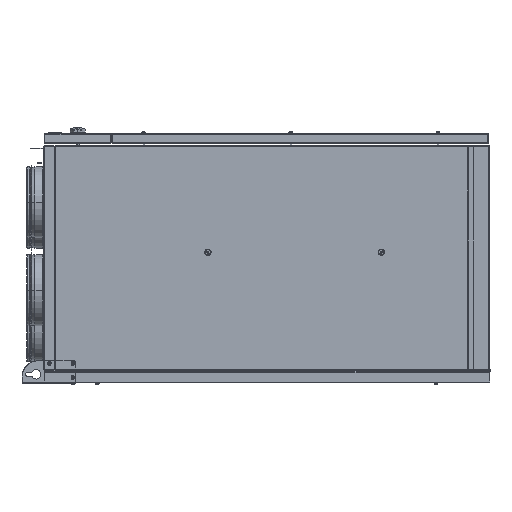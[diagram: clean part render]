
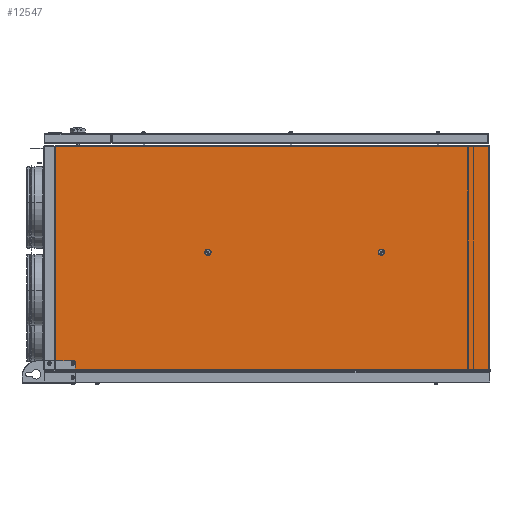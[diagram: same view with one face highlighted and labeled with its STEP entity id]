
A CAD part, left-side view. The second image highlights one B-rep face of the part: STEP entity #12547.
In plain terms, the highlighted planar face has unit normal (-1, 0, 0).
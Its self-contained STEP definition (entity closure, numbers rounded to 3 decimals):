
#462 = EDGE_CURVE ( 'NONE', #6132, #2155, #6568, .T. ) ;
#2112 = LINE ( 'NONE', #38619, #3410 ) ;
#2155 = VERTEX_POINT ( 'NONE', #54022 ) ;
#2178 = CARTESIAN_POINT ( 'NONE',  ( -357.5, 1.8, -250.2 ) ) ;
#2740 = CARTESIAN_POINT ( 'NONE',  ( -357.5, 935., -238. ) ) ;
#2783 = CARTESIAN_POINT ( 'NONE',  ( -357.5, 242.9, 5.95 ) ) ;
#3092 = DIRECTION ( 'NONE',  ( -1., 0., 0. ) ) ;
#3274 = DIRECTION ( 'NONE',  ( 0., 0., 1. ) ) ;
#3384 = PLANE ( 'NONE',  #7782 ) ;
#3410 = VECTOR ( 'NONE', #56352, 1000. ) ;
#3555 = EDGE_CURVE ( 'NONE', #10007, #17920, #6646, .T. ) ;
#4358 = VERTEX_POINT ( 'NONE', #40128 ) ;
#4546 = ORIENTED_EDGE ( 'NONE', *, *, #37330, .F. ) ;
#5634 = ORIENTED_EDGE ( 'NONE', *, *, #462, .F. ) ;
#6132 = VERTEX_POINT ( 'NONE', #2178 ) ;
#6388 = LINE ( 'NONE', #24389, #26656 ) ;
#6568 = LINE ( 'NONE', #37080, #44572 ) ;
#6646 = CIRCLE ( 'NONE', #22425, 7.15 ) ;
#7160 = CIRCLE ( 'NONE', #21964, 1.65 ) ;
#7540 = CIRCLE ( 'NONE', #34459, 7.15 ) ;
#7566 = EDGE_LOOP ( 'NONE', ( #30849, #8208 ) ) ;
#7729 = DIRECTION ( 'NONE',  ( 0., 1., 0. ) ) ;
#7782 = AXIS2_PLACEMENT_3D ( 'NONE', #30096, #33874, #7729 ) ;
#7938 = EDGE_CURVE ( 'NONE', #26345, #6132, #6388, .T. ) ;
#8102 = DIRECTION ( 'NONE',  ( -1., 0., 0. ) ) ;
#8208 = ORIENTED_EDGE ( 'NONE', *, *, #28723, .F. ) ;
#8583 = EDGE_LOOP ( 'NONE', ( #56703, #4546, #55564, #5634 ) ) ;
#8753 = CARTESIAN_POINT ( 'NONE',  ( -357.5, 973.1, -5126.5 ) ) ;
#8774 = CARTESIAN_POINT ( 'NONE',  ( -357.5, 933.35, -238. ) ) ;
#9228 = EDGE_CURVE ( 'NONE', #14181, #44152, #7160, .T. ) ;
#10007 = VERTEX_POINT ( 'NONE', #14467 ) ;
#10480 = VERTEX_POINT ( 'NONE', #2783 ) ;
#10754 = DIRECTION ( 'NONE',  ( 0., 0., -1. ) ) ;
#12065 = ORIENTED_EDGE ( 'NONE', *, *, #51888, .F. ) ;
#12099 = DIRECTION ( 'NONE',  ( -1., 0., 0. ) ) ;
#12407 = CARTESIAN_POINT ( 'NONE',  ( -357.5, 935., -238. ) ) ;
#12547 = ADVANCED_FACE ( 'NONE', ( #28916, #24019, #24590, #21348 ), #3384, .F. ) ;
#12857 = CARTESIAN_POINT ( 'NONE',  ( -357.5, 973.1, 250.2 ) ) ;
#13364 = CARTESIAN_POINT ( 'NONE',  ( -357.5, 631.877, 5.731 ) ) ;
#14181 = VERTEX_POINT ( 'NONE', #41567 ) ;
#14467 = CARTESIAN_POINT ( 'NONE',  ( -357.5, 631.877, 20.031 ) ) ;
#15569 = CIRCLE ( 'NONE', #38809, 7.15 ) ;
#16358 = CARTESIAN_POINT ( 'NONE',  ( -357.5, 1.8, 250.2 ) ) ;
#16780 = CIRCLE ( 'NONE', #51126, 1.65 ) ;
#16882 = LINE ( 'NONE', #8753, #32080 ) ;
#17173 = CIRCLE ( 'NONE', #43166, 7.15 ) ;
#17372 = CARTESIAN_POINT ( 'NONE',  ( -357.5, 631.877, 12.881 ) ) ;
#17637 = DIRECTION ( 'NONE',  ( 0., -1., 0. ) ) ;
#17920 = VERTEX_POINT ( 'NONE', #13364 ) ;
#18501 = ORIENTED_EDGE ( 'NONE', *, *, #3555, .F. ) ;
#18761 = EDGE_LOOP ( 'NONE', ( #49727, #57012 ) ) ;
#21348 = FACE_OUTER_BOUND ( 'NONE', #8583, .T. ) ;
#21671 = DIRECTION ( 'NONE',  ( 0., -1., 0. ) ) ;
#21964 = AXIS2_PLACEMENT_3D ( 'NONE', #12407, #57436, #25478 ) ;
#22425 = AXIS2_PLACEMENT_3D ( 'NONE', #17372, #8102, #17637 ) ;
#22897 = EDGE_CURVE ( 'NONE', #10480, #4358, #17173, .T. ) ;
#23876 = DIRECTION ( 'NONE',  ( -1., 0., 0. ) ) ;
#24017 = DIRECTION ( 'NONE',  ( 0., 1., 0. ) ) ;
#24019 = FACE_BOUND ( 'NONE', #49818, .T. ) ;
#24389 = CARTESIAN_POINT ( 'NONE',  ( -357.5, 1.8, 5126.5 ) ) ;
#24590 = FACE_BOUND ( 'NONE', #7566, .T. ) ;
#25478 = DIRECTION ( 'NONE',  ( 0., -1., 0. ) ) ;
#26345 = VERTEX_POINT ( 'NONE', #16358 ) ;
#26656 = VECTOR ( 'NONE', #10754, 1000. ) ;
#28223 = CARTESIAN_POINT ( 'NONE',  ( -357.5, 631.877, 12.881 ) ) ;
#28723 = EDGE_CURVE ( 'NONE', #4358, #10480, #7540, .T. ) ;
#28916 = FACE_BOUND ( 'NONE', #18761, .T. ) ;
#30096 = CARTESIAN_POINT ( 'NONE',  ( -357.5, 974.9, 252. ) ) ;
#30849 = ORIENTED_EDGE ( 'NONE', *, *, #22897, .F. ) ;
#32080 = VECTOR ( 'NONE', #3274, 1000. ) ;
#33501 = DIRECTION ( 'NONE',  ( -1., 0., 0. ) ) ;
#33807 = DIRECTION ( 'NONE',  ( 0., -1., 0. ) ) ;
#33832 = VERTEX_POINT ( 'NONE', #12857 ) ;
#33874 = DIRECTION ( 'NONE',  ( 1., 0., 0. ) ) ;
#34459 = AXIS2_PLACEMENT_3D ( 'NONE', #38222, #3092, #55959 ) ;
#37080 = CARTESIAN_POINT ( 'NONE',  ( -357.5, -4874.5, -250.2 ) ) ;
#37330 = EDGE_CURVE ( 'NONE', #33832, #26345, #2112, .T. ) ;
#38222 = CARTESIAN_POINT ( 'NONE',  ( -357.5, 242.9, 13.1 ) ) ;
#38619 = CARTESIAN_POINT ( 'NONE',  ( -357.5, 5849.4, 250.2 ) ) ;
#38809 = AXIS2_PLACEMENT_3D ( 'NONE', #28223, #23876, #41614 ) ;
#40128 = CARTESIAN_POINT ( 'NONE',  ( -357.5, 242.9, 20.25 ) ) ;
#41567 = CARTESIAN_POINT ( 'NONE',  ( -357.5, 936.65, -238. ) ) ;
#41614 = DIRECTION ( 'NONE',  ( 0., -1., 0. ) ) ;
#43166 = AXIS2_PLACEMENT_3D ( 'NONE', #51899, #12099, #21671 ) ;
#44152 = VERTEX_POINT ( 'NONE', #8774 ) ;
#44572 = VECTOR ( 'NONE', #24017, 1000. ) ;
#47918 = EDGE_CURVE ( 'NONE', #2155, #33832, #16882, .T. ) ;
#49727 = ORIENTED_EDGE ( 'NONE', *, *, #54300, .F. ) ;
#49818 = EDGE_LOOP ( 'NONE', ( #12065, #18501 ) ) ;
#51126 = AXIS2_PLACEMENT_3D ( 'NONE', #2740, #33501, #33807 ) ;
#51888 = EDGE_CURVE ( 'NONE', #17920, #10007, #15569, .T. ) ;
#51899 = CARTESIAN_POINT ( 'NONE',  ( -357.5, 242.9, 13.1 ) ) ;
#54022 = CARTESIAN_POINT ( 'NONE',  ( -357.5, 973.1, -250.2 ) ) ;
#54300 = EDGE_CURVE ( 'NONE', #44152, #14181, #16780, .T. ) ;
#55564 = ORIENTED_EDGE ( 'NONE', *, *, #47918, .F. ) ;
#55959 = DIRECTION ( 'NONE',  ( 0., -1., 0. ) ) ;
#56352 = DIRECTION ( 'NONE',  ( 0., -1., 0. ) ) ;
#56703 = ORIENTED_EDGE ( 'NONE', *, *, #7938, .F. ) ;
#57012 = ORIENTED_EDGE ( 'NONE', *, *, #9228, .F. ) ;
#57436 = DIRECTION ( 'NONE',  ( -1., 0., 0. ) ) ;
